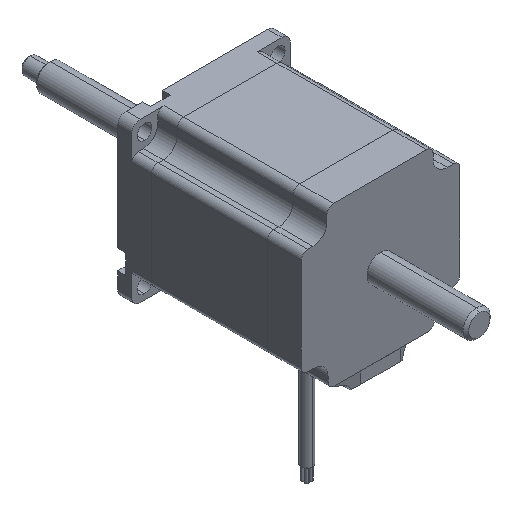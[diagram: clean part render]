
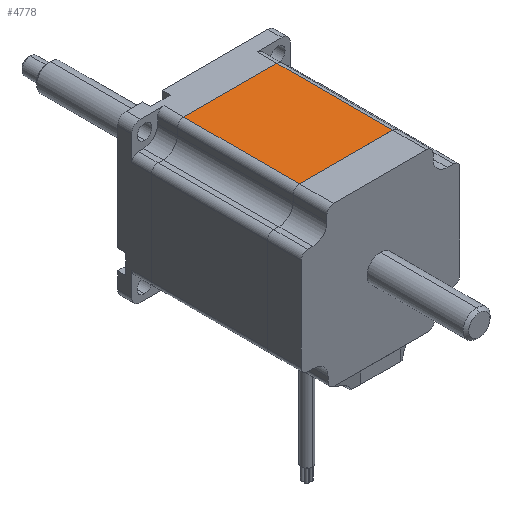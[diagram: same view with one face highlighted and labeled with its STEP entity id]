
A CAD part, isometric view. The second image highlights one B-rep face of the part: STEP entity #4778.
In plain terms, the highlighted planar face has unit normal (0, 0, 1).
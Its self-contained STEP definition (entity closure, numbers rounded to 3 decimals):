
#133 = CARTESIAN_POINT ( 'NONE',  ( 16.3, -7.001, 28.1 ) ) ;
#325 = VECTOR ( 'NONE', #5549, 1000. ) ;
#379 = EDGE_LOOP ( 'NONE', ( #2630, #453, #5185, #6453 ) ) ;
#440 = EDGE_CURVE ( 'NONE', #5507, #4494, #1668, .T. ) ;
#453 = ORIENTED_EDGE ( 'NONE', *, *, #440, .T. ) ;
#651 = EDGE_CURVE ( 'NONE', #5507, #2006, #1677, .T. ) ;
#791 = CARTESIAN_POINT ( 'NONE',  ( 16.3, -47.99, 28.1 ) ) ;
#879 = DIRECTION ( 'NONE',  ( 0., 1., 0. ) ) ;
#1668 = LINE ( 'NONE', #1982, #5053 ) ;
#1677 = LINE ( 'NONE', #2119, #325 ) ;
#1678 = CARTESIAN_POINT ( 'NONE',  ( -16.7, -7.001, 28.1 ) ) ;
#1982 = CARTESIAN_POINT ( 'NONE',  ( 16.3, -60., 28.1 ) ) ;
#2006 = VERTEX_POINT ( 'NONE', #3722 ) ;
#2119 = CARTESIAN_POINT ( 'NONE',  ( 25.1, -47.99, 28.1 ) ) ;
#2335 = DIRECTION ( 'NONE',  ( 1., 0., 0. ) ) ;
#2337 = VECTOR ( 'NONE', #2335, 1000. ) ;
#2402 = PLANE ( 'NONE',  #3436 ) ;
#2630 = ORIENTED_EDGE ( 'NONE', *, *, #651, .F. ) ;
#3372 = CARTESIAN_POINT ( 'NONE',  ( 25.1, -7.001, 28.1 ) ) ;
#3436 = AXIS2_PLACEMENT_3D ( 'NONE', #3890, #6410, #4855 ) ;
#3722 = CARTESIAN_POINT ( 'NONE',  ( -16.7, -47.99, 28.1 ) ) ;
#3890 = CARTESIAN_POINT ( 'NONE',  ( 25.1, 5., 28.1 ) ) ;
#3995 = VECTOR ( 'NONE', #879, 1000. ) ;
#4139 = LINE ( 'NONE', #3372, #2337 ) ;
#4474 = FACE_OUTER_BOUND ( 'NONE', #379, .T. ) ;
#4494 = VERTEX_POINT ( 'NONE', #133 ) ;
#4708 = EDGE_CURVE ( 'NONE', #2006, #5892, #5702, .T. ) ;
#4778 = ADVANCED_FACE ( 'NONE', ( #4474 ), #2402, .F. ) ;
#4855 = DIRECTION ( 'NONE',  ( -1., 0., 0. ) ) ;
#5053 = VECTOR ( 'NONE', #6482, 1000. ) ;
#5185 = ORIENTED_EDGE ( 'NONE', *, *, #5956, .F. ) ;
#5388 = CARTESIAN_POINT ( 'NONE',  ( -16.7, -60., 28.1 ) ) ;
#5507 = VERTEX_POINT ( 'NONE', #791 ) ;
#5549 = DIRECTION ( 'NONE',  ( -1., 0., 0. ) ) ;
#5702 = LINE ( 'NONE', #5388, #3995 ) ;
#5892 = VERTEX_POINT ( 'NONE', #1678 ) ;
#5956 = EDGE_CURVE ( 'NONE', #5892, #4494, #4139, .T. ) ;
#6410 = DIRECTION ( 'NONE',  ( 0., 0., -1. ) ) ;
#6453 = ORIENTED_EDGE ( 'NONE', *, *, #4708, .F. ) ;
#6482 = DIRECTION ( 'NONE',  ( 0., 1., 0. ) ) ;
